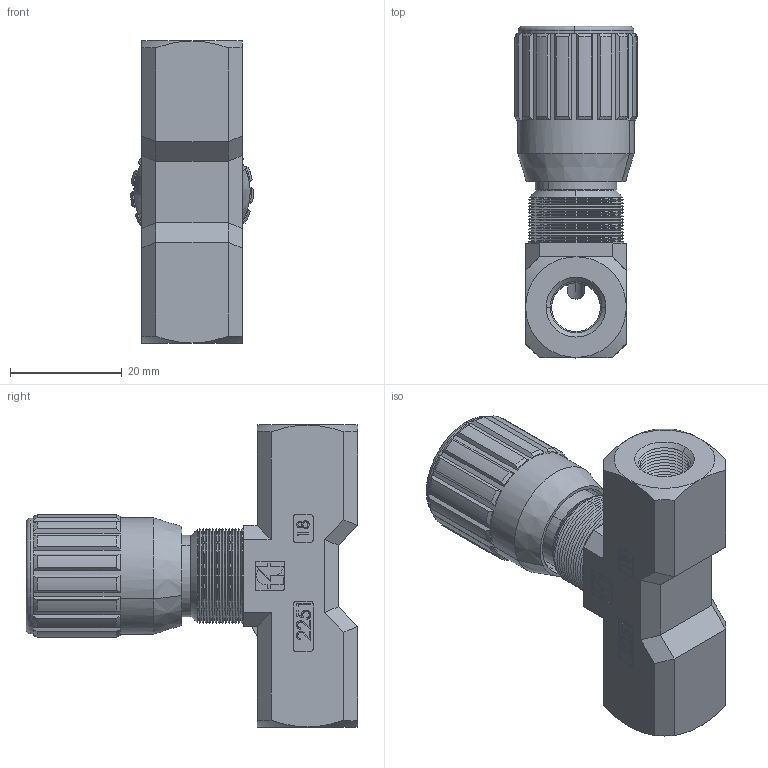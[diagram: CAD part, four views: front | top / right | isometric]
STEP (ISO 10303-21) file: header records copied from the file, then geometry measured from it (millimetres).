
FILE_DESCRIPTION (( 'STEP AP214' ), '1' );
FILE_NAME ('FT2251-2-18.STEP', '2015-04-15T19:21:27', ( '' ), ( '' ), 'SwSTEP 2.0', 'SolidWorks 2014', '' );
FILE_SCHEMA (( 'AUTOMOTIVE_DESIGN' ));
Length unit declared in the file: millimetre
Products named in the file (1): FT2251-2-18
Bounding box: 21.99 x 59.3 x 54 mm (x, y, z)
Surface area: 9067.2 mm2 (no closed solid volume)
Topology: 0 solids, 34 shells, 522 faces, 1777 edges, 1234 vertices
Faces by surface type: plane 257, cone 158, cylinder 65, bspline 40, torus 2
Entity records: 27872 total; most frequent: CARTESIAN_POINT 7196, DIRECTION 2938, ORIENTED_EDGE 2908, EDGE_CURVE 1777, VERTEX_POINT 1234, LINE 1146, VECTOR 1146, AXIS2_PLACEMENT_3D 896
